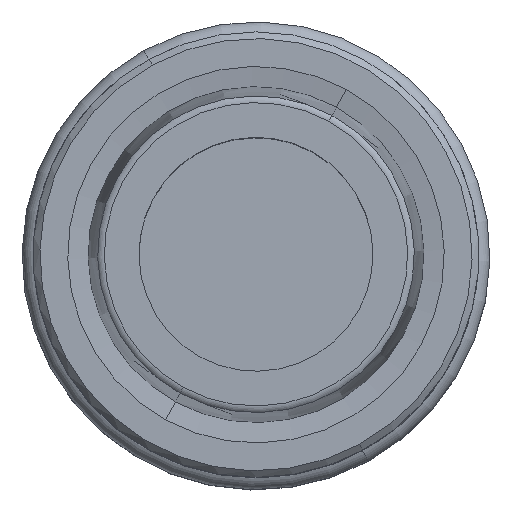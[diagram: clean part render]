
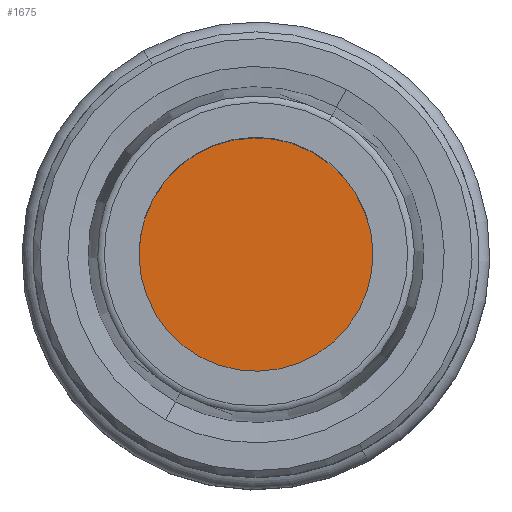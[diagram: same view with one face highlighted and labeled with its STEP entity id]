
A CAD part, top view. The second image highlights one B-rep face of the part: STEP entity #1675.
In plain terms, the highlighted planar face has unit normal (0, 0, 1).
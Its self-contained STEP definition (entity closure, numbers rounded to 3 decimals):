
#1637=AXIS2_PLACEMENT_3D('Circle Axis2P3D',#1635,#1636,$) ;
#1656=AXIS2_PLACEMENT_3D('Circle Axis2P3D',#1654,#1655,$) ;
#1669=AXIS2_PLACEMENT_3D('Plane Axis2P3D',#1666,#1667,#1668) ;
#1632=CARTESIAN_POINT('Vertex',(-5.034,-9.215,-8.)) ;
#1635=CARTESIAN_POINT('Axis2P3D Location',(0.,0.,-8.)) ;
#1639=CARTESIAN_POINT('Vertex',(5.034,9.215,-8.)) ;
#1654=CARTESIAN_POINT('Axis2P3D Location',(0.,0.,-8.)) ;
#1666=CARTESIAN_POINT('Axis2P3D Location',(0.,-9.9,-8.)) ;
#1636=DIRECTION('Axis2P3D Direction',(0.,0.,-1.)) ;
#1655=DIRECTION('Axis2P3D Direction',(0.,0.,-1.)) ;
#1667=DIRECTION('Axis2P3D Direction',(0.,0.,-1.)) ;
#1668=DIRECTION('Axis2P3D XDirection',(-1.,0.,0.)) ;
#1672=ORIENTED_EDGE('',*,*,#1658,.T.) ;
#1673=ORIENTED_EDGE('',*,*,#1641,.T.) ;
#1675=ADVANCED_FACE('NOCUT',(#1674),#1670,.F.) ;
#1638=CIRCLE('generated circle',#1637,10.5) ;
#1657=CIRCLE('generated circle',#1656,10.5) ;
#1641=EDGE_CURVE('',#1640,#1633,#1638,.F.) ;
#1658=EDGE_CURVE('',#1633,#1640,#1657,.F.) ;
#1671=EDGE_LOOP('',(#1672,#1673)) ;
#1674=FACE_OUTER_BOUND('',#1671,.T.) ;
#1670=PLANE('',#1669) ;
#1633=VERTEX_POINT('',#1632) ;
#1640=VERTEX_POINT('',#1639) ;
